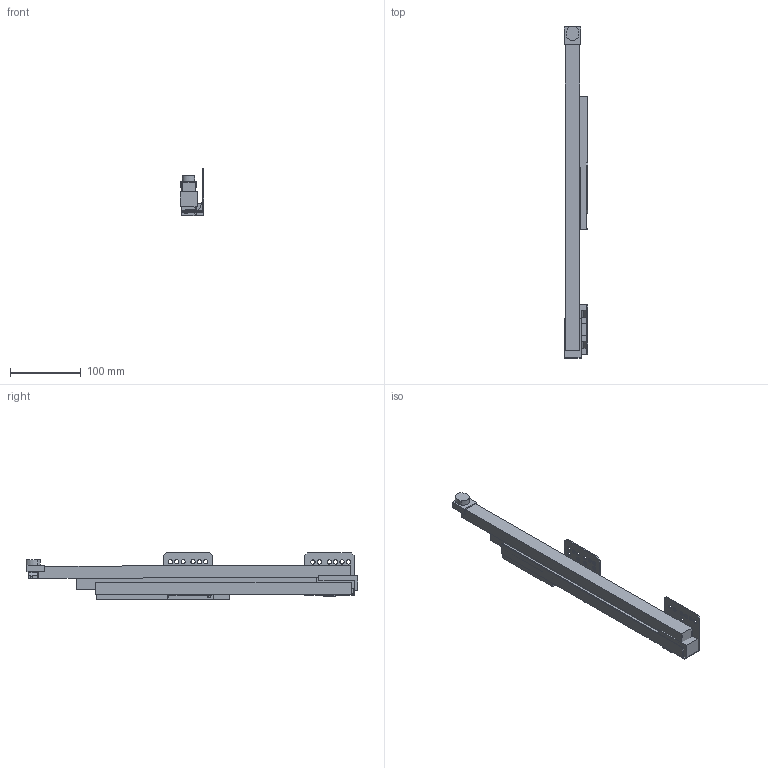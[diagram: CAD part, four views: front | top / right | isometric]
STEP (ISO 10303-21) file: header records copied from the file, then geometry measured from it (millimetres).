
FILE_DESCRIPTION (( 'STEP AP214' ), '1' );
FILE_NAME ('_IMOS Dynamic-XP VA 40kg NL450 RE Tipmatic.step', '2010-07-08T13:26:36', ( 'grass' ), ( '' ), 'SwSTEP 2.0', 'SolidWorks 2010', '' );
FILE_SCHEMA (( 'AUTOMOTIVE_DESIGN' ));
Length unit declared in the file: millimetre
Products named in the file (1): _IMOS Dynamic-XP VA 40kg NL450 RE Tipmatic
Bounding box: 33.14 x 468.02 x 66.67 mm (x, y, z)
Volume: 402860.4 mm3; surface area: 145364.8 mm2
Topology: 8 solids, 8 shells, 184 faces, 496 edges, 330 vertices
Faces by surface type: plane 137, cylinder 47
Entity records: 5917 total; most frequent: CARTESIAN_POINT 1011, ORIENTED_EDGE 992, DIRECTION 962, EDGE_CURVE 496, VECTOR 400, LINE 400, VERTEX_POINT 330, AXIS2_PLACEMENT_3D 281
